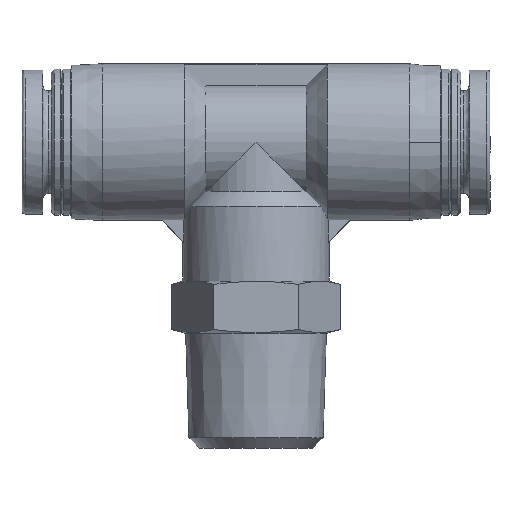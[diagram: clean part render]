
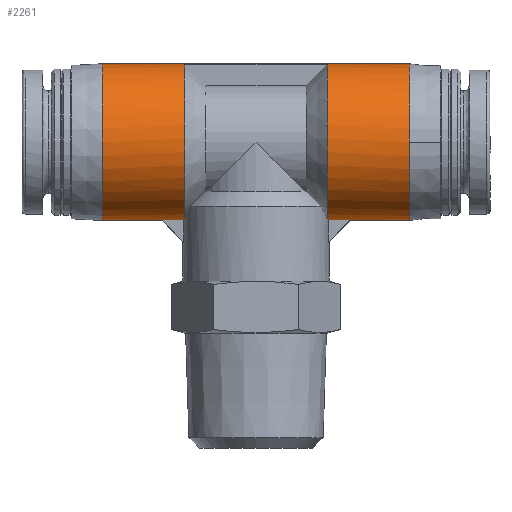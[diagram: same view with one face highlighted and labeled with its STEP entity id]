
A CAD part, front view. The second image highlights one B-rep face of the part: STEP entity #2261.
In plain terms, the highlighted cylindrical face has radius 7.5 mm (diameter 15 mm), a partial arc.
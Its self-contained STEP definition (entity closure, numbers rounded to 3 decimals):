
#2 = CARTESIAN_POINT ( 'NONE',  ( -9., 0., 21.8 ) ) ;
#36 = AXIS2_PLACEMENT_3D ( 'NONE', #430, #176, #1460 ) ;
#46 = DIRECTION ( 'NONE',  ( 1., 0., 0. ) ) ;
#105 = LINE ( 'NONE', #269, #1563 ) ;
#163 = VERTEX_POINT ( 'NONE', #3012 ) ;
#176 = DIRECTION ( 'NONE',  ( 1., 0., 0. ) ) ;
#195 = DIRECTION ( 'NONE',  ( -1., 0., 0. ) ) ;
#203 = CARTESIAN_POINT ( 'NONE',  ( -9.022, -0.668, 21.822 ) ) ;
#261 = CARTESIAN_POINT ( 'NONE',  ( 9.067, -1., 21.867 ) ) ;
#269 = CARTESIAN_POINT ( 'NONE',  ( -6.3, -1., 21.867 ) ) ;
#294 = CARTESIAN_POINT ( 'NONE',  ( 9., 0., 21.8 ) ) ;
#296 = CARTESIAN_POINT ( 'NONE',  ( 6.8, -1., 36.733 ) ) ;
#313 = CYLINDRICAL_SURFACE ( 'NONE', #845, 7.5 ) ;
#326 = VERTEX_POINT ( 'NONE', #2684 ) ;
#414 = ORIENTED_EDGE ( 'NONE', *, *, #1517, .T. ) ;
#430 = CARTESIAN_POINT ( 'NONE',  ( 6.8, 0., 29.3 ) ) ;
#470 = ORIENTED_EDGE ( 'NONE', *, *, #602, .F. ) ;
#565 = ORIENTED_EDGE ( 'NONE', *, *, #3057, .T. ) ;
#594 = VERTEX_POINT ( 'NONE', #261 ) ;
#597 = LINE ( 'NONE', #965, #3307 ) ;
#602 = EDGE_CURVE ( 'NONE', #910, #1187, #1768, .T. ) ;
#658 = AXIS2_PLACEMENT_3D ( 'NONE', #833, #840, #844 ) ;
#699 = EDGE_CURVE ( 'NONE', #910, #1595, #1530, .T. ) ;
#735 = DIRECTION ( 'NONE',  ( -1., 0., 0. ) ) ;
#745 = DIRECTION ( 'NONE',  ( 0., 0., 1. ) ) ;
#756 = CARTESIAN_POINT ( 'NONE',  ( 6.928, -1., 21.867 ) ) ;
#768 = EDGE_CURVE ( 'NONE', #1308, #326, #1456, .T. ) ;
#832 = ORIENTED_EDGE ( 'NONE', *, *, #2588, .F. ) ;
#833 = CARTESIAN_POINT ( 'NONE',  ( -14.7, 0., 29.3 ) ) ;
#840 = DIRECTION ( 'NONE',  ( 1., 0., 0. ) ) ;
#844 = DIRECTION ( 'NONE',  ( 0., 0., 1. ) ) ;
#845 = AXIS2_PLACEMENT_3D ( 'NONE', #1091, #735, #745 ) ;
#852 = VERTEX_POINT ( 'NONE', #3326 ) ;
#910 = VERTEX_POINT ( 'NONE', #3066 ) ;
#922 =( BOUNDED_CURVE ( )  B_SPLINE_CURVE ( 3, ( #2476, #2457, #2405, #2380 ),
 .UNSPECIFIED., .F., .F. ) 
 B_SPLINE_CURVE_WITH_KNOTS ( ( 4, 4 ),
 ( 6.149, 6.283 ),
 .UNSPECIFIED. ) 
 CURVE ( )  GEOMETRIC_REPRESENTATION_ITEM ( )  RATIONAL_B_SPLINE_CURVE ( ( 1., 0.999, 0.999, 1. ) ) 
 REPRESENTATION_ITEM ( '' )  );
#965 = CARTESIAN_POINT ( 'NONE',  ( 14.7, -1., 21.867 ) ) ;
#998 = VECTOR ( 'NONE', #195, 1000. ) ;
#1003 = CARTESIAN_POINT ( 'NONE',  ( -9., -0.335, 21.8 ) ) ;
#1010 = CARTESIAN_POINT ( 'NONE',  ( -14.7, 0., 36.8 ) ) ;
#1016 = ORIENTED_EDGE ( 'NONE', *, *, #768, .F. ) ;
#1021 = EDGE_LOOP ( 'NONE', ( #832, #3463, #1977, #565, #1893, #470, #2482, #2409, #3023, #2936, #2255, #414, #1016, #1267, #1614 ) ) ;
#1028 = VECTOR ( 'NONE', #1353, 1000. ) ;
#1058 = B_SPLINE_CURVE_WITH_KNOTS ( 'NONE', 3,
 ( #3207, #3211, #3112, #3082 ),
 .UNSPECIFIED., .F., .F.,
 ( 4, 4 ),
 ( 0., 0.001 ),
 .UNSPECIFIED. ) ;
#1060 = CARTESIAN_POINT ( 'NONE',  ( 14.7, -7.5, 29.3 ) ) ;
#1076 = CIRCLE ( 'NONE', #658, 7.5 ) ;
#1091 = CARTESIAN_POINT ( 'NONE',  ( 14.7, 0., 29.3 ) ) ;
#1187 = VERTEX_POINT ( 'NONE', #2565 ) ;
#1252 = VECTOR ( 'NONE', #3078, 1000. ) ;
#1267 = ORIENTED_EDGE ( 'NONE', *, *, #1440, .T. ) ;
#1285 = VERTEX_POINT ( 'NONE', #1010 ) ;
#1287 = CIRCLE ( 'NONE', #2580, 7.5 ) ;
#1308 = VERTEX_POINT ( 'NONE', #1821 ) ;
#1331 = CARTESIAN_POINT ( 'NONE',  ( 14.7, 0., 21.8 ) ) ;
#1353 = DIRECTION ( 'NONE',  ( -1., 0., 0. ) ) ;
#1370 = CARTESIAN_POINT ( 'NONE',  ( 14.7, 0., 21.8 ) ) ;
#1398 = DIRECTION ( 'NONE',  ( 0., 0., 1. ) ) ;
#1440 = EDGE_CURVE ( 'NONE', #1308, #594, #597, .T. ) ;
#1456 = B_SPLINE_CURVE_WITH_KNOTS ( 'NONE', 3,
 ( #756, #3472, #3432, #3421 ),
 .UNSPECIFIED., .F., .F.,
 ( 4, 4 ),
 ( 0., 0.001 ),
 .UNSPECIFIED. ) ;
#1460 = DIRECTION ( 'NONE',  ( 0., 0., 1. ) ) ;
#1465 = CARTESIAN_POINT ( 'NONE',  ( 14.7, 0., 29.3 ) ) ;
#1517 = EDGE_CURVE ( 'NONE', #2955, #326, #2515, .T. ) ;
#1530 =( BOUNDED_CURVE ( )  B_SPLINE_CURVE ( 3, ( #2, #1003, #203, #1538 ),
 .UNSPECIFIED., .F., .F. ) 
 B_SPLINE_CURVE_WITH_KNOTS ( ( 4, 4 ),
 ( 3.142, 3.275 ),
 .UNSPECIFIED. ) 
 CURVE ( )  GEOMETRIC_REPRESENTATION_ITEM ( )  RATIONAL_B_SPLINE_CURVE ( ( 1., 0.999, 0.999, 1. ) ) 
 REPRESENTATION_ITEM ( '' )  );
#1538 = CARTESIAN_POINT ( 'NONE',  ( -9.067, -1., 21.867 ) ) ;
#1551 = CARTESIAN_POINT ( 'NONE',  ( -6.8, -1., 36.733 ) ) ;
#1559 = LINE ( 'NONE', #1370, #1028 ) ;
#1563 = VECTOR ( 'NONE', #46, 1000. ) ;
#1595 = VERTEX_POINT ( 'NONE', #2596 ) ;
#1614 = ORIENTED_EDGE ( 'NONE', *, *, #3384, .T. ) ;
#1662 = DIRECTION ( 'NONE',  ( 0., 0., 1. ) ) ;
#1759 = FACE_OUTER_BOUND ( 'NONE', #1021, .T. ) ;
#1768 = LINE ( 'NONE', #1331, #998 ) ;
#1821 = CARTESIAN_POINT ( 'NONE',  ( 6.928, -1., 21.867 ) ) ;
#1893 = ORIENTED_EDGE ( 'NONE', *, *, #2265, .T. ) ;
#1977 = ORIENTED_EDGE ( 'NONE', *, *, #3108, .T. ) ;
#1991 = CARTESIAN_POINT ( 'NONE',  ( 14.7, 0., 21.8 ) ) ;
#2048 = CARTESIAN_POINT ( 'NONE',  ( 14.7, 0., 36.8 ) ) ;
#2111 = EDGE_CURVE ( 'NONE', #1595, #852, #105, .T. ) ;
#2185 = DIRECTION ( 'NONE',  ( -1., 0., 0. ) ) ;
#2192 = VERTEX_POINT ( 'NONE', #294 ) ;
#2244 = AXIS2_PLACEMENT_3D ( 'NONE', #3440, #3425, #3413 ) ;
#2255 = ORIENTED_EDGE ( 'NONE', *, *, #3336, .T. ) ;
#2261 = ADVANCED_FACE ( '39', ( #1759 ), #313, .T. ) ;
#2265 = EDGE_CURVE ( 'NONE', #1285, #1187, #1076, .T. ) ;
#2380 = CARTESIAN_POINT ( 'NONE',  ( 9., 0., 21.8 ) ) ;
#2399 = DIRECTION ( 'NONE',  ( -1., 0., 0. ) ) ;
#2402 = EDGE_CURVE ( 'NONE', #163, #3182, #2798, .T. ) ;
#2405 = CARTESIAN_POINT ( 'NONE',  ( 9., -0.335, 21.8 ) ) ;
#2409 = ORIENTED_EDGE ( 'NONE', *, *, #2111, .T. ) ;
#2421 = EDGE_CURVE ( 'NONE', #163, #852, #1058, .T. ) ;
#2457 = CARTESIAN_POINT ( 'NONE',  ( 9.022, -0.668, 21.822 ) ) ;
#2476 = CARTESIAN_POINT ( 'NONE',  ( 9.067, -1., 21.867 ) ) ;
#2482 = ORIENTED_EDGE ( 'NONE', *, *, #699, .T. ) ;
#2515 = CIRCLE ( 'NONE', #36, 7.5 ) ;
#2544 = DIRECTION ( 'NONE',  ( 1., 0., 0. ) ) ;
#2550 = VERTEX_POINT ( 'NONE', #1991 ) ;
#2565 = CARTESIAN_POINT ( 'NONE',  ( -14.7, 0., 21.8 ) ) ;
#2580 = AXIS2_PLACEMENT_3D ( 'NONE', #3470, #2399, #1398 ) ;
#2588 = EDGE_CURVE ( 'NONE', #2550, #2192, #1559, .T. ) ;
#2596 = CARTESIAN_POINT ( 'NONE',  ( -9.067, -1., 21.867 ) ) ;
#2624 = VERTEX_POINT ( 'NONE', #1060 ) ;
#2677 = CIRCLE ( 'NONE', #3230, 7.5 ) ;
#2684 = CARTESIAN_POINT ( 'NONE',  ( 6.8, -1.661, 21.986 ) ) ;
#2798 = CIRCLE ( 'NONE', #2244, 7.5 ) ;
#2807 = VERTEX_POINT ( 'NONE', #2048 ) ;
#2921 = VECTOR ( 'NONE', #3197, 1000. ) ;
#2936 = ORIENTED_EDGE ( 'NONE', *, *, #2402, .T. ) ;
#2954 = EDGE_CURVE ( 'NONE', #2550, #2624, #1287, .T. ) ;
#2955 = VERTEX_POINT ( 'NONE', #296 ) ;
#2977 = CARTESIAN_POINT ( 'NONE',  ( 14.7, -1., 36.733 ) ) ;
#3012 = CARTESIAN_POINT ( 'NONE',  ( -6.8, -1.661, 21.986 ) ) ;
#3023 = ORIENTED_EDGE ( 'NONE', *, *, #2421, .F. ) ;
#3057 = EDGE_CURVE ( 'NONE', #2807, #1285, #3088, .T. ) ;
#3066 = CARTESIAN_POINT ( 'NONE',  ( -9., 0., 21.8 ) ) ;
#3078 = DIRECTION ( 'NONE',  ( 1., 0., 0. ) ) ;
#3082 = CARTESIAN_POINT ( 'NONE',  ( -6.928, -1., 21.867 ) ) ;
#3088 = LINE ( 'NONE', #3188, #2921 ) ;
#3108 = EDGE_CURVE ( 'NONE', #2624, #2807, #2677, .T. ) ;
#3112 = CARTESIAN_POINT ( 'NONE',  ( -6.896, -1.224, 21.897 ) ) ;
#3182 = VERTEX_POINT ( 'NONE', #1551 ) ;
#3188 = CARTESIAN_POINT ( 'NONE',  ( 14.7, 0., 36.8 ) ) ;
#3197 = DIRECTION ( 'NONE',  ( -1., 0., 0. ) ) ;
#3207 = CARTESIAN_POINT ( 'NONE',  ( -6.8, -1.661, 21.986 ) ) ;
#3211 = CARTESIAN_POINT ( 'NONE',  ( -6.853, -1.445, 21.937 ) ) ;
#3230 = AXIS2_PLACEMENT_3D ( 'NONE', #1465, #2185, #1662 ) ;
#3307 = VECTOR ( 'NONE', #2544, 1000. ) ;
#3313 = LINE ( 'NONE', #2977, #1252 ) ;
#3326 = CARTESIAN_POINT ( 'NONE',  ( -6.928, -1., 21.867 ) ) ;
#3336 = EDGE_CURVE ( 'NONE', #3182, #2955, #3313, .T. ) ;
#3384 = EDGE_CURVE ( 'NONE', #594, #2192, #922, .T. ) ;
#3413 = DIRECTION ( 'NONE',  ( 0., 0., 1. ) ) ;
#3421 = CARTESIAN_POINT ( 'NONE',  ( 6.8, -1.661, 21.986 ) ) ;
#3425 = DIRECTION ( 'NONE',  ( -1., 0., 0. ) ) ;
#3432 = CARTESIAN_POINT ( 'NONE',  ( 6.853, -1.445, 21.937 ) ) ;
#3440 = CARTESIAN_POINT ( 'NONE',  ( -6.8, 0., 29.3 ) ) ;
#3463 = ORIENTED_EDGE ( 'NONE', *, *, #2954, .T. ) ;
#3470 = CARTESIAN_POINT ( 'NONE',  ( 14.7, 0., 29.3 ) ) ;
#3472 = CARTESIAN_POINT ( 'NONE',  ( 6.896, -1.224, 21.897 ) ) ;
